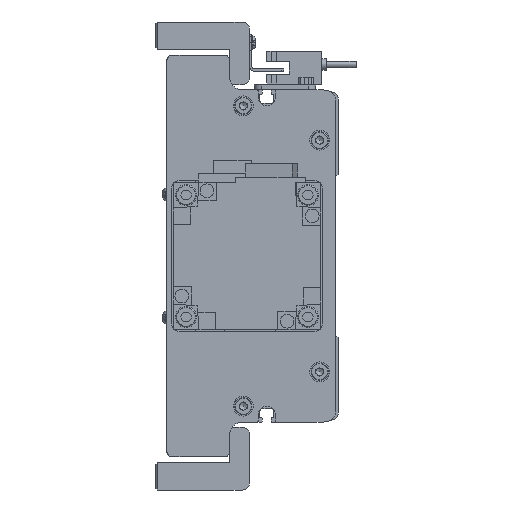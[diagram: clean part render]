
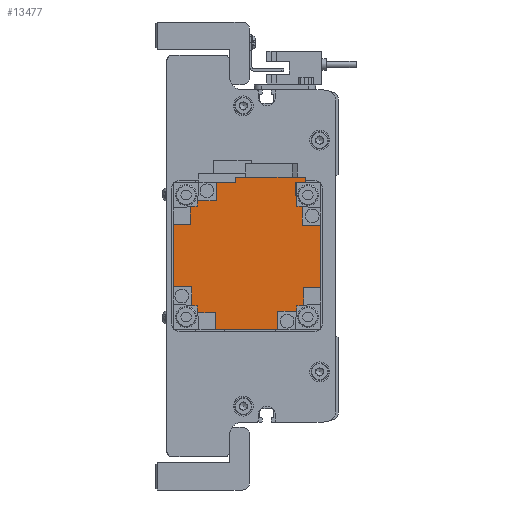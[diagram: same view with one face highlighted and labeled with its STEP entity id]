
A CAD part, left-side view. The second image highlights one B-rep face of the part: STEP entity #13477.
In plain terms, the highlighted planar face has unit normal (-1, 0, 0) as drawn and (0, 1, 0) by its records, which use the part's own axes.
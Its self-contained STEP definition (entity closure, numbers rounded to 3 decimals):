
#1320=ORIENTED_EDGE('',*,*,#4982,.T.);
#1321=ORIENTED_EDGE('',*,*,#4983,.T.);
#1322=ORIENTED_EDGE('',*,*,#4984,.T.);
#1323=ORIENTED_EDGE('',*,*,#4985,.T.);
#1324=ORIENTED_EDGE('',*,*,#4986,.T.);
#1325=ORIENTED_EDGE('',*,*,#4987,.F.);
#1326=ORIENTED_EDGE('',*,*,#4988,.F.);
#1327=ORIENTED_EDGE('',*,*,#4989,.T.);
#1328=ORIENTED_EDGE('',*,*,#4990,.T.);
#1329=ORIENTED_EDGE('',*,*,#4991,.T.);
#1330=ORIENTED_EDGE('',*,*,#4992,.T.);
#1331=ORIENTED_EDGE('',*,*,#4993,.T.);
#1332=ORIENTED_EDGE('',*,*,#4994,.F.);
#1333=ORIENTED_EDGE('',*,*,#4995,.F.);
#1334=ORIENTED_EDGE('',*,*,#4996,.T.);
#1335=ORIENTED_EDGE('',*,*,#4997,.T.);
#1336=ORIENTED_EDGE('',*,*,#4998,.T.);
#1337=ORIENTED_EDGE('',*,*,#4999,.T.);
#1338=ORIENTED_EDGE('',*,*,#5000,.T.);
#1339=ORIENTED_EDGE('',*,*,#5001,.F.);
#1340=ORIENTED_EDGE('',*,*,#5002,.F.);
#1341=ORIENTED_EDGE('',*,*,#5003,.T.);
#1342=ORIENTED_EDGE('',*,*,#5004,.F.);
#1343=ORIENTED_EDGE('',*,*,#4963,.F.);
#1344=ORIENTED_EDGE('',*,*,#5005,.T.);
#1345=ORIENTED_EDGE('',*,*,#4980,.T.);
#1346=ORIENTED_EDGE('',*,*,#5006,.T.);
#1347=ORIENTED_EDGE('',*,*,#5007,.T.);
#1348=ORIENTED_EDGE('',*,*,#5008,.F.);
#1349=ORIENTED_EDGE('',*,*,#5009,.F.);
#4963=EDGE_CURVE('',#6826,#6827,#8182,.T.);
#4980=EDGE_CURVE('',#6844,#6843,#8199,.T.);
#4982=EDGE_CURVE('',#6845,#6846,#8201,.T.);
#4983=EDGE_CURVE('',#6846,#6847,#8202,.T.);
#4984=EDGE_CURVE('',#6847,#6848,#8203,.T.);
#4985=EDGE_CURVE('',#6848,#6849,#8204,.T.);
#4986=EDGE_CURVE('',#6849,#6850,#8205,.T.);
#4987=EDGE_CURVE('',#6851,#6850,#8206,.T.);
#4988=EDGE_CURVE('',#6852,#6851,#8207,.T.);
#4989=EDGE_CURVE('',#6852,#6853,#8208,.T.);
#4990=EDGE_CURVE('',#6853,#6854,#8209,.T.);
#4991=EDGE_CURVE('',#6854,#6855,#8210,.T.);
#4992=EDGE_CURVE('',#6855,#6856,#8211,.T.);
#4993=EDGE_CURVE('',#6856,#6857,#8212,.T.);
#4994=EDGE_CURVE('',#6858,#6857,#8213,.T.);
#4995=EDGE_CURVE('',#6859,#6858,#8214,.T.);
#4996=EDGE_CURVE('',#6859,#6860,#8215,.T.);
#4997=EDGE_CURVE('',#6860,#6861,#8216,.T.);
#4998=EDGE_CURVE('',#6861,#6862,#8217,.T.);
#4999=EDGE_CURVE('',#6862,#6863,#8218,.T.);
#5000=EDGE_CURVE('',#6863,#6864,#8219,.T.);
#5001=EDGE_CURVE('',#6865,#6864,#8220,.T.);
#5002=EDGE_CURVE('',#6866,#6865,#8221,.T.);
#5003=EDGE_CURVE('',#6866,#6867,#8222,.T.);
#5004=EDGE_CURVE('',#6827,#6867,#8223,.T.);
#5005=EDGE_CURVE('',#6826,#6844,#8224,.T.);
#5006=EDGE_CURVE('',#6843,#6868,#8225,.T.);
#5007=EDGE_CURVE('',#6868,#6869,#8226,.T.);
#5008=EDGE_CURVE('',#6870,#6869,#8227,.T.);
#5009=EDGE_CURVE('',#6845,#6870,#8228,.T.);
#6826=VERTEX_POINT('',#20099);
#6827=VERTEX_POINT('',#20100);
#6843=VERTEX_POINT('',#20133);
#6844=VERTEX_POINT('',#20135);
#6845=VERTEX_POINT('',#20139);
#6846=VERTEX_POINT('',#20140);
#6847=VERTEX_POINT('',#20142);
#6848=VERTEX_POINT('',#20144);
#6849=VERTEX_POINT('',#20146);
#6850=VERTEX_POINT('',#20148);
#6851=VERTEX_POINT('',#20150);
#6852=VERTEX_POINT('',#20152);
#6853=VERTEX_POINT('',#20154);
#6854=VERTEX_POINT('',#20156);
#6855=VERTEX_POINT('',#20158);
#6856=VERTEX_POINT('',#20160);
#6857=VERTEX_POINT('',#20162);
#6858=VERTEX_POINT('',#20164);
#6859=VERTEX_POINT('',#20166);
#6860=VERTEX_POINT('',#20168);
#6861=VERTEX_POINT('',#20170);
#6862=VERTEX_POINT('',#20172);
#6863=VERTEX_POINT('',#20174);
#6864=VERTEX_POINT('',#20176);
#6865=VERTEX_POINT('',#20178);
#6866=VERTEX_POINT('',#20180);
#6867=VERTEX_POINT('',#20182);
#6868=VERTEX_POINT('',#20186);
#6869=VERTEX_POINT('',#20188);
#6870=VERTEX_POINT('',#20190);
#8182=LINE('',#20098,#9539);
#8199=LINE('',#20134,#9556);
#8201=LINE('',#20138,#9558);
#8202=LINE('',#20141,#9559);
#8203=LINE('',#20143,#9560);
#8204=LINE('',#20145,#9561);
#8205=LINE('',#20147,#9562);
#8206=LINE('',#20149,#9563);
#8207=LINE('',#20151,#9564);
#8208=LINE('',#20153,#9565);
#8209=LINE('',#20155,#9566);
#8210=LINE('',#20157,#9567);
#8211=LINE('',#20159,#9568);
#8212=LINE('',#20161,#9569);
#8213=LINE('',#20163,#9570);
#8214=LINE('',#20165,#9571);
#8215=LINE('',#20167,#9572);
#8216=LINE('',#20169,#9573);
#8217=LINE('',#20171,#9574);
#8218=LINE('',#20173,#9575);
#8219=LINE('',#20175,#9576);
#8220=LINE('',#20177,#9577);
#8221=LINE('',#20179,#9578);
#8222=LINE('',#20181,#9579);
#8223=LINE('',#20183,#9580);
#8224=LINE('',#20184,#9581);
#8225=LINE('',#20185,#9582);
#8226=LINE('',#20187,#9583);
#8227=LINE('',#20189,#9584);
#8228=LINE('',#20191,#9585);
#9539=VECTOR('',#16010,1000.);
#9556=VECTOR('',#16029,1000.);
#9558=VECTOR('',#16033,1000.);
#9559=VECTOR('',#16034,1000.);
#9560=VECTOR('',#16035,1000.);
#9561=VECTOR('',#16036,1000.);
#9562=VECTOR('',#16037,1000.);
#9563=VECTOR('',#16038,1000.);
#9564=VECTOR('',#16039,1000.);
#9565=VECTOR('',#16040,1000.);
#9566=VECTOR('',#16041,1000.);
#9567=VECTOR('',#16042,1000.);
#9568=VECTOR('',#16043,1000.);
#9569=VECTOR('',#16044,1000.);
#9570=VECTOR('',#16045,1000.);
#9571=VECTOR('',#16046,1000.);
#9572=VECTOR('',#16047,1000.);
#9573=VECTOR('',#16048,1000.);
#9574=VECTOR('',#16049,1000.);
#9575=VECTOR('',#16050,1000.);
#9576=VECTOR('',#16051,1000.);
#9577=VECTOR('',#16052,1000.);
#9578=VECTOR('',#16053,1000.);
#9579=VECTOR('',#16054,1000.);
#9580=VECTOR('',#16055,1000.);
#9581=VECTOR('',#16056,1000.);
#9582=VECTOR('',#16057,1000.);
#9583=VECTOR('',#16058,1000.);
#9584=VECTOR('',#16059,1000.);
#9585=VECTOR('',#16060,1000.);
#10840=EDGE_LOOP('',(#1320,#1321,#1322,#1323,#1324,#1325,#1326,#1327,#1328,
#1329,#1330,#1331,#1332,#1333,#1334,#1335,#1336,#1337,#1338,#1339,#1340,
#1341,#1342,#1343,#1344,#1345,#1346,#1347,#1348,#1349));
#11891=FACE_BOUND('',#10840,.T.);
#12929=PLANE('',#14395);
#13477=ADVANCED_FACE('',(#11891),#12929,.T.);
#14395=AXIS2_PLACEMENT_3D('',#20137,#16031,#16032);
#16010=DIRECTION('',(0.,0.,1.));
#16029=DIRECTION('',(0.,0.,-1.));
#16031=DIRECTION('',(0.,1.,0.));
#16032=DIRECTION('',(0.,0.,1.));
#16033=DIRECTION('',(-1.,0.,0.));
#16034=DIRECTION('',(0.,0.,-1.));
#16035=DIRECTION('',(-1.,0.,0.));
#16036=DIRECTION('',(0.,0.,1.));
#16037=DIRECTION('',(-1.,0.,0.));
#16038=DIRECTION('',(0.07,0.,-0.998));
#16039=DIRECTION('',(0.998,0.,-0.07));
#16040=DIRECTION('',(0.,0.,1.));
#16041=DIRECTION('',(-1.,0.,0.));
#16042=DIRECTION('',(0.,0.,1.));
#16043=DIRECTION('',(1.,0.,0.));
#16044=DIRECTION('',(0.,0.,1.));
#16045=DIRECTION('',(-0.998,0.,-0.07));
#16046=DIRECTION('',(-0.07,0.,-0.998));
#16047=DIRECTION('',(1.,0.,0.));
#16048=DIRECTION('',(0.,0.,1.));
#16049=DIRECTION('',(1.,0.,0.));
#16050=DIRECTION('',(0.,0.,-1.));
#16051=DIRECTION('',(1.,0.,0.));
#16052=DIRECTION('',(-0.07,0.,0.998));
#16053=DIRECTION('',(-0.998,0.,0.07));
#16054=DIRECTION('',(0.,0.,1.));
#16055=DIRECTION('',(-1.,0.,0.));
#16056=DIRECTION('',(-1.,0.,0.));
#16057=DIRECTION('',(-1.,0.,0.));
#16058=DIRECTION('',(0.,0.,-1.));
#16059=DIRECTION('',(0.998,0.,0.07));
#16060=DIRECTION('',(0.07,0.,0.998));
#20098=CARTESIAN_POINT('',(32.,130.7,-4.7));
#20099=CARTESIAN_POINT('',(32.,130.7,-4.7));
#20100=CARTESIAN_POINT('',(32.,130.7,23.7));
#20133=CARTESIAN_POINT('',(29.95,130.7,-12.5));
#20134=CARTESIAN_POINT('',(29.95,130.7,29.95));
#20135=CARTESIAN_POINT('',(29.95,130.7,-4.7));
#20137=CARTESIAN_POINT('',(0.,130.7,0.));
#20138=CARTESIAN_POINT('',(0.,130.7,-23.));
#20139=CARTESIAN_POINT('',(20.004,130.7,-23.));
#20140=CARTESIAN_POINT('',(12.8,130.7,-23.));
#20141=CARTESIAN_POINT('',(12.8,130.7,0.));
#20142=CARTESIAN_POINT('',(12.8,130.7,-29.95));
#20143=CARTESIAN_POINT('',(29.95,130.7,-29.95));
#20144=CARTESIAN_POINT('',(-12.5,130.7,-29.95));
#20145=CARTESIAN_POINT('',(-12.5,130.7,0.));
#20146=CARTESIAN_POINT('',(-12.5,130.7,-22.5));
#20147=CARTESIAN_POINT('',(0.,130.7,-22.5));
#20148=CARTESIAN_POINT('',(-20.039,130.7,-22.5));
#20149=CARTESIAN_POINT('',(-21.507,130.7,-1.504));
#20150=CARTESIAN_POINT('',(-20.2,130.7,-20.2));
#20151=CARTESIAN_POINT('',(-1.504,130.7,-21.507));
#20152=CARTESIAN_POINT('',(-23.,130.7,-20.004));
#20153=CARTESIAN_POINT('',(-23.,130.7,0.));
#20154=CARTESIAN_POINT('',(-23.,130.7,-12.8));
#20155=CARTESIAN_POINT('',(0.,130.7,-12.8));
#20156=CARTESIAN_POINT('',(-29.95,130.7,-12.8));
#20157=CARTESIAN_POINT('',(-29.95,130.7,-29.95));
#20158=CARTESIAN_POINT('',(-29.95,130.7,12.5));
#20159=CARTESIAN_POINT('',(0.,130.7,12.5));
#20160=CARTESIAN_POINT('',(-22.5,130.7,12.5));
#20161=CARTESIAN_POINT('',(-22.5,130.7,0.));
#20162=CARTESIAN_POINT('',(-22.5,130.7,20.039));
#20163=CARTESIAN_POINT('',(-1.504,130.7,21.507));
#20164=CARTESIAN_POINT('',(-20.2,130.7,20.2));
#20165=CARTESIAN_POINT('',(-21.507,130.7,1.504));
#20166=CARTESIAN_POINT('',(-20.004,130.7,23.));
#20167=CARTESIAN_POINT('',(0.,130.7,23.));
#20168=CARTESIAN_POINT('',(-12.8,130.7,23.));
#20169=CARTESIAN_POINT('',(-12.8,130.7,0.));
#20170=CARTESIAN_POINT('',(-12.8,130.7,29.95));
#20171=CARTESIAN_POINT('',(-29.95,130.7,29.95));
#20172=CARTESIAN_POINT('',(12.5,130.7,29.95));
#20173=CARTESIAN_POINT('',(12.5,130.7,0.));
#20174=CARTESIAN_POINT('',(12.5,130.7,22.5));
#20175=CARTESIAN_POINT('',(0.,130.7,22.5));
#20176=CARTESIAN_POINT('',(20.039,130.7,22.5));
#20177=CARTESIAN_POINT('',(21.507,130.7,1.504));
#20178=CARTESIAN_POINT('',(20.2,130.7,20.2));
#20179=CARTESIAN_POINT('',(1.504,130.7,21.507));
#20180=CARTESIAN_POINT('',(29.95,130.7,19.518));
#20181=CARTESIAN_POINT('',(29.95,130.7,-4.7));
#20182=CARTESIAN_POINT('',(29.95,130.7,23.7));
#20183=CARTESIAN_POINT('',(32.,130.7,23.7));
#20184=CARTESIAN_POINT('',(32.,130.7,-4.7));
#20185=CARTESIAN_POINT('',(0.,130.7,-12.5));
#20186=CARTESIAN_POINT('',(22.5,130.7,-12.5));
#20187=CARTESIAN_POINT('',(22.5,130.7,0.));
#20188=CARTESIAN_POINT('',(22.5,130.7,-20.039));
#20189=CARTESIAN_POINT('',(1.504,130.7,-21.507));
#20190=CARTESIAN_POINT('',(20.2,130.7,-20.2));
#20191=CARTESIAN_POINT('',(21.507,130.7,-1.504));
